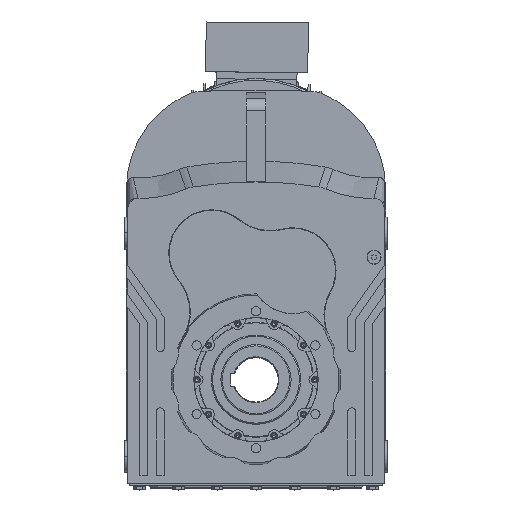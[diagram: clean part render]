
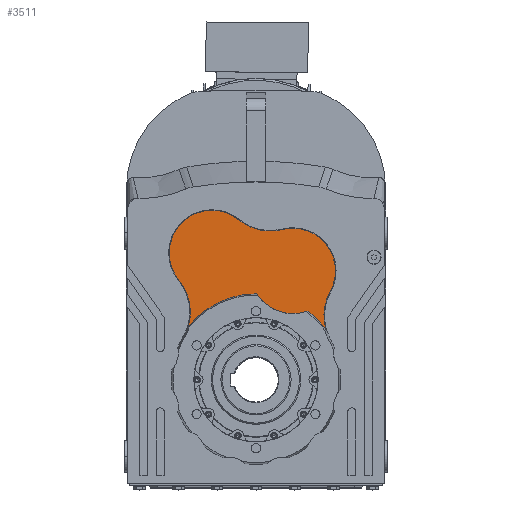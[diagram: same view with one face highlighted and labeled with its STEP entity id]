
A CAD part, top view. The second image highlights one B-rep face of the part: STEP entity #3511.
In plain terms, the highlighted planar face has unit normal (0, 0, 1).
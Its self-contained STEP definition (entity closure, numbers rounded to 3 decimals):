
#3511 = ADVANCED_FACE ( 'NONE', ( #53217 ), #13759, .T. ) ;
#6609 = CIRCLE ( 'NONE', #11959, 134.625 ) ;
#6633 = CIRCLE ( 'NONE', #11972, 78.108 ) ;
#9054 = CIRCLE ( 'NONE', #36991, 66.892 ) ;
#9830 = EDGE_CURVE ( 'NONE', #43913, #43992, #9054, .T. ) ;
#9929 = EDGE_CURVE ( 'NONE', #65460, #43973, #31317, .T. ) ;
#9945 = EDGE_CURVE ( 'NONE', #65478, #43918, #31548, .T. ) ;
#9947 = EDGE_CURVE ( 'NONE', #65464, #43960, #31504, .T. ) ;
#9955 = EDGE_CURVE ( 'NONE', #43961, #43960, #31506, .T. ) ;
#9966 = EDGE_CURVE ( 'NONE', #43913, #43918, #31460, .T. ) ;
#9986 = EDGE_CURVE ( 'NONE', #43992, #43961, #6609, .T. ) ;
#9988 = EDGE_CURVE ( 'NONE', #65516, #43973, #6633, .T. ) ;
#11132 = EDGE_CURVE ( 'NONE', #65493, #65460, #28764, .T. ) ;
#11185 = EDGE_CURVE ( 'NONE', #65493, #65478, #28724, .T. ) ;
#11224 = EDGE_CURVE ( 'NONE', #65516, #65464, #28935, .T. ) ;
#11944 = AXIS2_PLACEMENT_3D ( 'NONE', #63021, #63018, #63013 ) ;
#11954 = AXIS2_PLACEMENT_3D ( 'NONE', #62948, #62928, #62934 ) ;
#11958 = AXIS2_PLACEMENT_3D ( 'NONE', #62984, #62989, #62990 ) ;
#11959 = AXIS2_PLACEMENT_3D ( 'NONE', #63075, #63053, #63056 ) ;
#11972 = AXIS2_PLACEMENT_3D ( 'NONE', #63055, #63077, #63078 ) ;
#12007 = AXIS2_PLACEMENT_3D ( 'NONE', #62991, #62974, #62978 ) ;
#12041 = AXIS2_PLACEMENT_3D ( 'NONE', #62979, #63006, #63008 ) ;
#12473 = AXIS2_PLACEMENT_3D ( 'NONE', #42030, #41926, #41943 ) ;
#12521 = AXIS2_PLACEMENT_3D ( 'NONE', #16036, #16044, #16046 ) ;
#12611 = AXIS2_PLACEMENT_3D ( 'NONE', #19844, #19824, #19913 ) ;
#13759 = PLANE ( 'NONE',  #37114 ) ;
#13767 = CARTESIAN_POINT ( 'NONE',  ( 40.113, 240.793, 251. ) ) ;
#13794 = DIRECTION ( 'NONE',  ( 0., 0., 1. ) ) ;
#13809 = DIRECTION ( 'NONE',  ( 1., 0., 0. ) ) ;
#16036 = CARTESIAN_POINT ( 'NONE',  ( -181.014, 106.46, 251. ) ) ;
#16044 = DIRECTION ( 'NONE',  ( 0., 0., -1. ) ) ;
#16046 = DIRECTION ( 'NONE',  ( 1., 0., 0. ) ) ;
#18915 = CARTESIAN_POINT ( 'NONE',  ( -69.128, 265.583, 251. ) ) ;
#19824 = DIRECTION ( 'NONE',  ( 0., 0., -1. ) ) ;
#19844 = CARTESIAN_POINT ( 'NONE',  ( -69.128, 198.691, 251. ) ) ;
#19913 = DIRECTION ( 'NONE',  ( 0., 1., 0. ) ) ;
#25037 = EDGE_LOOP ( 'NONE', ( #27119, #27191, #26891, #26903, #26947, #27047, #27175, #27199, #27246, #27250, #27213 ) ) ;
#26891 = ORIENTED_EDGE ( 'NONE', *, *, #9966, .F. ) ;
#26903 = ORIENTED_EDGE ( 'NONE', *, *, #9830, .T. ) ;
#26947 = ORIENTED_EDGE ( 'NONE', *, *, #9986, .T. ) ;
#27047 = ORIENTED_EDGE ( 'NONE', *, *, #9955, .T. ) ;
#27119 = ORIENTED_EDGE ( 'NONE', *, *, #11185, .T. ) ;
#27175 = ORIENTED_EDGE ( 'NONE', *, *, #9947, .F. ) ;
#27191 = ORIENTED_EDGE ( 'NONE', *, *, #9945, .T. ) ;
#27199 = ORIENTED_EDGE ( 'NONE', *, *, #11224, .F. ) ;
#27213 = ORIENTED_EDGE ( 'NONE', *, *, #11132, .F. ) ;
#27246 = ORIENTED_EDGE ( 'NONE', *, *, #9988, .T. ) ;
#27250 = ORIENTED_EDGE ( 'NONE', *, *, #9929, .F. ) ;
#28724 = CIRCLE ( 'NONE', #12521, 78.108 ) ;
#28764 = CIRCLE ( 'NONE', #12611, 66.892 ) ;
#28935 = CIRCLE ( 'NONE', #12473, 66.892 ) ;
#31317 = CIRCLE ( 'NONE', #11954, 66.892 ) ;
#31460 = CIRCLE ( 'NONE', #11944, 134.625 ) ;
#31504 = CIRCLE ( 'NONE', #12007, 66.892 ) ;
#31506 = CIRCLE ( 'NONE', #12041, 78.108 ) ;
#31548 = CIRCLE ( 'NONE', #11958, 78.108 ) ;
#36991 = AXIS2_PLACEMENT_3D ( 'NONE', #62780, #62804, #62786 ) ;
#37114 = AXIS2_PLACEMENT_3D ( 'NONE', #13767, #13794, #13809 ) ;
#41926 = DIRECTION ( 'NONE',  ( 0., 0., -1. ) ) ;
#41943 = DIRECTION ( 'NONE',  ( 0., 1., 0. ) ) ;
#42030 = CARTESIAN_POINT ( 'NONE',  ( 57.773, 170.477, 251. ) ) ;
#43913 = VERTEX_POINT ( 'NONE', #82660 ) ;
#43918 = VERTEX_POINT ( 'NONE', #82709 ) ;
#43960 = VERTEX_POINT ( 'NONE', #82749 ) ;
#43961 = VERTEX_POINT ( 'NONE', #82828 ) ;
#43973 = VERTEX_POINT ( 'NONE', #82842 ) ;
#43992 = VERTEX_POINT ( 'NONE', #82794 ) ;
#53217 = FACE_OUTER_BOUND ( 'NONE', #25037, .T. ) ;
#56403 = CARTESIAN_POINT ( 'NONE',  ( 57.773, 237.368, 251. ) ) ;
#62780 = CARTESIAN_POINT ( 'NONE',  ( 57.773, 170.477, 251. ) ) ;
#62786 = DIRECTION ( 'NONE',  ( -1., 0., 0. ) ) ;
#62804 = DIRECTION ( 'NONE',  ( 0., 0., 1. ) ) ;
#62928 = DIRECTION ( 'NONE',  ( 0., 0., -1. ) ) ;
#62934 = DIRECTION ( 'NONE',  ( 0., 1., 0. ) ) ;
#62948 = CARTESIAN_POINT ( 'NONE',  ( -69.128, 198.691, 251. ) ) ;
#62974 = DIRECTION ( 'NONE',  ( 0., 0., -1. ) ) ;
#62978 = DIRECTION ( 'NONE',  ( 0., 1., 0. ) ) ;
#62979 = CARTESIAN_POINT ( 'NONE',  ( 184.579, 100.153, 251. ) ) ;
#62984 = CARTESIAN_POINT ( 'NONE',  ( -181.014, 106.46, 251. ) ) ;
#62989 = DIRECTION ( 'NONE',  ( 0., 0., -1. ) ) ;
#62990 = DIRECTION ( 'NONE',  ( 1., 0., 0. ) ) ;
#62991 = CARTESIAN_POINT ( 'NONE',  ( 57.773, 170.477, 251. ) ) ;
#63006 = DIRECTION ( 'NONE',  ( 0., 0., -1. ) ) ;
#63008 = DIRECTION ( 'NONE',  ( 0., -1., 0. ) ) ;
#63013 = DIRECTION ( 'NONE',  ( -1., 0., 0. ) ) ;
#63018 = DIRECTION ( 'NONE',  ( 0., 0., 1. ) ) ;
#63021 = CARTESIAN_POINT ( 'NONE',  ( 0., 0., 251. ) ) ;
#63053 = DIRECTION ( 'NONE',  ( 0., 0., -1. ) ) ;
#63055 = CARTESIAN_POINT ( 'NONE',  ( 22.453, 311.109, 251. ) ) ;
#63056 = DIRECTION ( 'NONE',  ( -1., 0., 0. ) ) ;
#63075 = CARTESIAN_POINT ( 'NONE',  ( 0., 0., 251. ) ) ;
#63077 = DIRECTION ( 'NONE',  ( 0., 0., -1. ) ) ;
#63078 = DIRECTION ( 'NONE',  ( 1., 0., 0. ) ) ;
#65460 = VERTEX_POINT ( 'NONE', #18915 ) ;
#65464 = VERTEX_POINT ( 'NONE', #56403 ) ;
#65478 = VERTEX_POINT ( 'NONE', #72562 ) ;
#65493 = VERTEX_POINT ( 'NONE', #72579 ) ;
#65516 = VERTEX_POINT ( 'NONE', #72575 ) ;
#72562 = CARTESIAN_POINT ( 'NONE',  ( -102.906, 106.46, 251. ) ) ;
#72575 = CARTESIAN_POINT ( 'NONE',  ( 41.479, 235.354, 251. ) ) ;
#72579 = CARTESIAN_POINT ( 'NONE',  ( -120.744, 156.143, 251. ) ) ;
#82660 = CARTESIAN_POINT ( 'NONE',  ( 1.305, 134.618, 251. ) ) ;
#82709 = CARTESIAN_POINT ( 'NONE',  ( -106.885, 81.85, 251. ) ) ;
#82749 = CARTESIAN_POINT ( 'NONE',  ( 116.272, 138.035, 251. ) ) ;
#82794 = CARTESIAN_POINT ( 'NONE',  ( 80.807, 107.675, 251. ) ) ;
#82828 = CARTESIAN_POINT ( 'NONE',  ( 109.644, 78.115, 251. ) ) ;
#82842 = CARTESIAN_POINT ( 'NONE',  ( -26.879, 250.552, 251. ) ) ;
